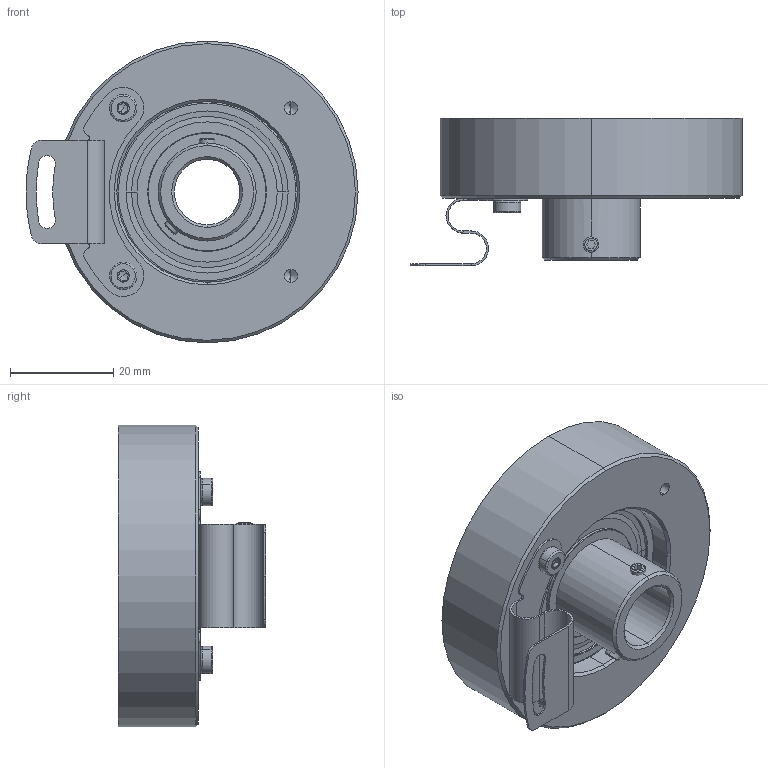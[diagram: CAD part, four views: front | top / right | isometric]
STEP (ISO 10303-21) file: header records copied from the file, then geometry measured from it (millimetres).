
FILE_DESCRIPTION (( 'STEP AP214' ), '1' );
FILE_NAME ('drawing ucd-xtt0-q5b-n.STEP', '2017-05-24T13:46:04', ( '' ), ( '' ), 'SwSTEP 2.0', 'SolidWorks 2017', '' );
FILE_SCHEMA (( 'AUTOMOTIVE_DESIGN' ));
Length unit declared in the file: millimetre
Products named in the file (1): drawing ucd-xtt0-q5b-n
Bounding box: 64.35 x 28.6 x 58.5 mm (x, y, z)
Volume: 36552 mm3; surface area: 21299 mm2
Topology: 20 solids, 20 shells, 467 faces, 1067 edges, 598 vertices
Faces by surface type: cone 184, cylinder 147, plane 66, bspline 50, torus 20
Entity records: 19442 total; most frequent: CARTESIAN_POINT 3835, DIRECTION 2319, ORIENTED_EDGE 2022, EDGE_CURVE 1011, AXIS2_PLACEMENT_3D 966, VERTEX_POINT 598, CIRCLE 548, EDGE_LOOP 501
